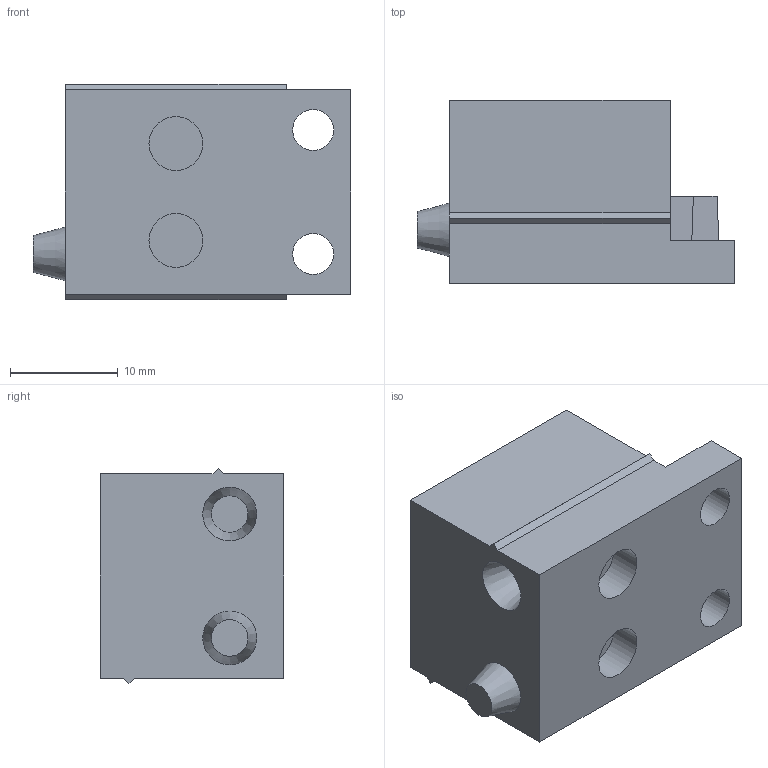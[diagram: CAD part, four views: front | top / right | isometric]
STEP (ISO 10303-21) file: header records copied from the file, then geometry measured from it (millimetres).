
FILE_DESCRIPTION(/* description */ ('STEP AP203'),/* implementation_level */ '2;1');
FILE_NAME(/* name */ '107833 TMS-STPG-GY',/* time_stamp */ '2024-10-04T14:41:53+02:00',/* author */ ('License CC BY-ND 4.0'),/* organization */ ('CADENAS'),/* preprocessor_version */ 'ST-DEVELOPER v19.3',/* originating_system */ 'PARTsolutions',/* authorisation */ ' ');
FILE_SCHEMA (('CONFIG_CONTROL_DESIGN'));
Length unit declared in the file: millimetre
Products named in the file (1): 107833 TMS-STPG-GY
Bounding box: 29.5 x 17 x 20 mm (x, y, z)
Volume: 6842.3 mm3; surface area: 2773.7 mm2
Topology: 1 solids, 1 shells, 36 faces, 84 edges, 56 vertices
Faces by surface type: plane 28, cylinder 6, cone 2
Full cylindrical faces by diameter (mm): 3.8 x2, 5 x4
Entity records: 1022 total; most frequent: CARTESIAN_POINT 169, DIRECTION 166, ORIENTED_EDGE 152, EDGE_CURVE 76, LINE 60, VECTOR 60, VERTEX_POINT 56, EDGE_LOOP 54
